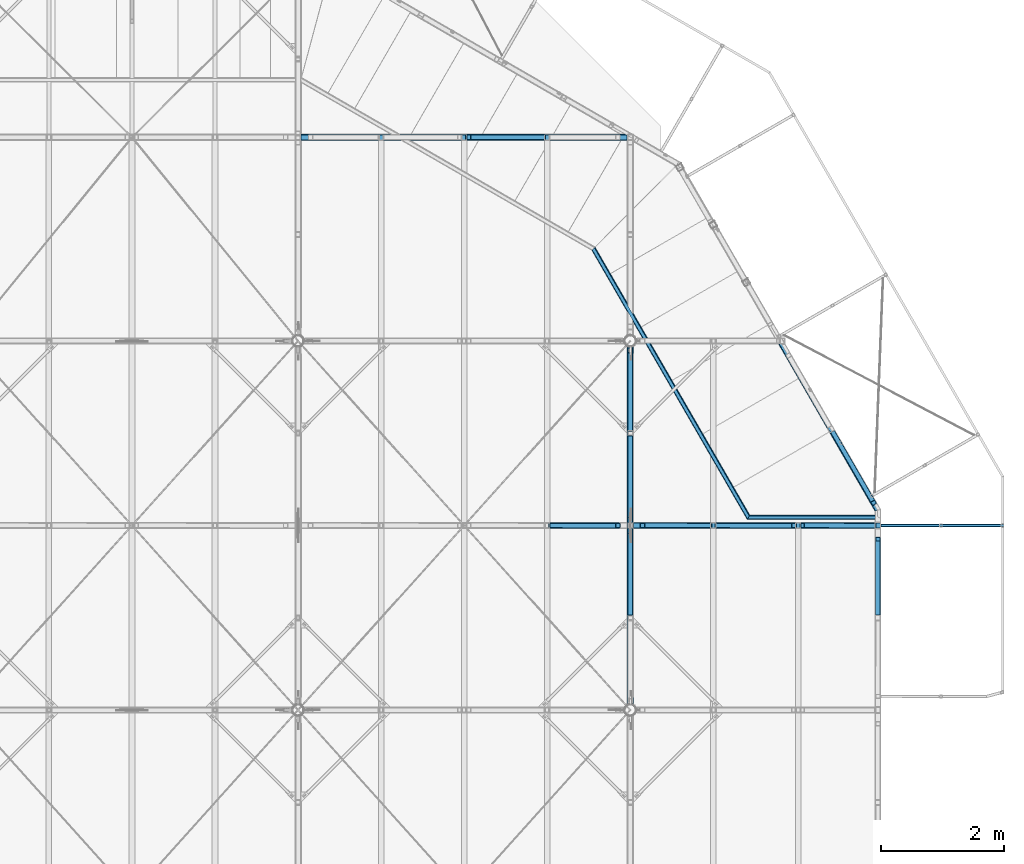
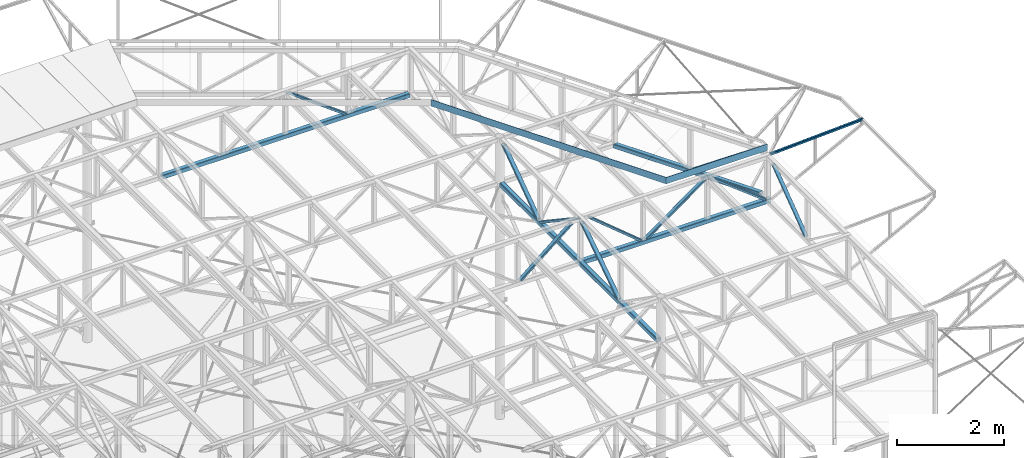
# One storey, part 58 of 132: 19 discrete accessories, 9 elements without a shape of their own.
"""IFC2X3 building model written with IfcOpenShell, lengths in millimetres."""

from ifc_helpers import new_model, si_unit, frame, origin_with_axes, origin_2d_with_axis, place, context, subcontext, project, spatial, rounded_rectangle, hollow_rectangle, circle, l_section, extrude, boolean, clip, halfspace, material, type_object, element, aggregate, save


model = new_model("IFC2X3")

# Units and contexts
model_context = context("Model", 3, precision=1e-05, world=origin_with_axes())
body_context = subcontext(model_context, "Body", "Model", "MODEL_VIEW")
ifc_project = project(units=[si_unit("LENGTHUNIT", "METRE", prefix="MILLI"), si_unit("AREAUNIT", "SQUARE_METRE"), si_unit("VOLUMEUNIT", "CUBIC_METRE"), si_unit("MASSUNIT", "GRAM", prefix="KILO"), si_unit("TIMEUNIT", "SECOND"), si_unit("PLANEANGLEUNIT", "RADIAN"), si_unit("SOLIDANGLEUNIT", "STERADIAN"), si_unit("THERMODYNAMICTEMPERATUREUNIT", "DEGREE_CELSIUS"), si_unit("LUMINOUSINTENSITYUNIT", "LUMEN")], contexts=[model_context])

# Site, building, storey
site_placement = place(None, origin_with_axes())
site = spatial("IfcSite", under=ifc_project, at=site_placement, Name="Budowa", CompositionType="ELEMENT")
building_placement = place(site_placement, origin_with_axes())
building = spatial("IfcBuilding", under=site, at=building_placement, Name="Undefined", CompositionType="ELEMENT")
storey_placement = place(building_placement, origin_with_axes())
storey = spatial("IfcBuildingStorey", under=building, at=storey_placement, Name="Undefined", CompositionType="ELEMENT", Elevation=0.0)

# Assembly, discrete accessories
assembly_1_placement = place(storey_placement, origin_with_axes())
assembly_1 = element("IfcElementAssembly", 1, at=assembly_1_placement, inside=storey, Name="Steel Assembly", AssemblyPlace="NOTDEFINED", PredefinedType="RIGID_FRAME")
ifc_material = material(Name="STEEL/S235")
discrete_accessory_type = type_object("IfcDiscreteAccessoryType", Name="BEAM")
discrete_accessory_1_placement = place(assembly_1_placement, frame((22153.4010117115, 15116.2999962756, 13965.0), z_axis=(0.866025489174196, 0.499999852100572, 0.0), x_axis=(-0.500000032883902, 0.866025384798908, 0.0)))
discrete_accessory_1 = element("IfcDiscreteAccessory", 2, at=discrete_accessory_1_placement, type_object=discrete_accessory_type, material=ifc_material, Name="BEAM", ObjectType="L50*6", context=body_context, shape_type="Clipping", body=[
    clip(clip(extrude(l_section(Depth=50.0, Width=50.0, Thickness=6.0, FilletRadius=7.0, EdgeRadius=3.5, at=origin_2d_with_axis()), frame((5114.41468636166, 0.0, 0.0), z_axis=(-1.0, 0.0, 0.0), x_axis=(0.0, -1.0, 0.0)), (0.0, 0.0, 1.0), 5154.39), halfspace(frame((5053.30976804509, 0.0, -25.0000000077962), z_axis=(-0.965925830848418, 0.0, 0.258819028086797), x_axis=(0.0, 1.0, 0.0)), True)), halfspace(frame((3.51101334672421e-08, 0.0, -24.9999999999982), z_axis=(-0.866025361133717, 0.0, 0.500000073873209), x_axis=(0.0, 1.0, 0.0)), False)),
])
discrete_accessory_2_placement = place(assembly_1_placement, frame((24300.0001076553, 15128.7999999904, 13965.0), z_axis=(0.0, 1.0, 0.0), x_axis=(-1.0, 0.0, 0.0)))
discrete_accessory_2 = element("IfcDiscreteAccessory", 3, at=discrete_accessory_2_placement, type_object=discrete_accessory_type, material=ifc_material, Name="BEAM", ObjectType="L50*6", context=body_context, shape_type="Clipping", body=[
    clip(clip(extrude(l_section(Depth=50.0, Width=50.0, Thickness=6.0, FilletRadius=7.0, EdgeRadius=3.5, at=origin_2d_with_axis()), frame((2198.69407077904, 0.0, 0.0), z_axis=(-1.0, 0.0, 0.0), x_axis=(0.0, -1.0, 0.0)), (0.0, 0.0, 1.0), 2213.57), halfspace(frame((2168.24973318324, 0.0, -24.9999999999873), z_axis=(-0.86602536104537, 0.0, -0.50000007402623), x_axis=(0.0, 1.0, 0.0)), True)), halfspace(frame((59.999750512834, 39.0, 25.0), z_axis=(0.64018439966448, 0.0, -0.768221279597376), x_axis=(0.0, 1.0, 0.0)), True)),
])
aggregate(assembly_1, [discrete_accessory_1, discrete_accessory_2])

assembly_2_placement = place(storey_placement, origin_with_axes())
assembly_2 = element("IfcElementAssembly", 4, at=assembly_2_placement, inside=storey, Name="Steel Assembly", AssemblyPlace="NOTDEFINED", PredefinedType="RIGID_FRAME")
discrete_accessory_3_placement = place(assembly_2_placement, frame((24300.0001076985, 15132.3000000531, 13955.0), z_axis=(0.0, 0.0, 1.0), x_axis=(-1.0, 0.0, 0.0)))
discrete_accessory_3 = element("IfcDiscreteAccessory", 5, at=discrete_accessory_3_placement, type_object=discrete_accessory_type, material=ifc_material, Name="BEAM", ObjectType="L150*75*9", context=body_context, shape_type="Clipping", body=[
    clip(extrude(l_section(Depth=150.0, Width=75.0, Thickness=9.0, FilletRadius=10.5, EdgeRadius=5.5, at=origin_2d_with_axis()), frame((2173.66239300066, 0.0, 0.0), z_axis=(-1.0, 0.0, 0.0), x_axis=(0.0, -1.0, 0.0)), (0.0, 0.0, 1.0), 2173.66), halfspace(frame((2173.44588660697, 37.4999999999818, 0.0), z_axis=(-0.86602545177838, 0.499999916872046, 0.0), x_axis=(0.0, 0.0, 1.0)), True)),
])
discrete_accessory_4_placement = place(assembly_2_placement, frame((22366.4764427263, 14754.2423806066, 13955.0), z_axis=(0.0, 0.0, 1.0), x_axis=(-0.500000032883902, 0.866025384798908, 0.0)))
discrete_accessory_4 = element("IfcDiscreteAccessory", 6, at=discrete_accessory_4_placement, type_object=discrete_accessory_type, material=ifc_material, Name="BEAM", ObjectType="L150*75*9", context=body_context, shape_type="Clipping", body=[
    clip(clip(extrude(l_section(Depth=150.0, Width=75.0, Thickness=9.0, FilletRadius=10.5, EdgeRadius=5.5, at=origin_2d_with_axis()), frame((5562.64441027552, -3.08788795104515e-13, -1.81898940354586e-12), z_axis=(-1.0, 0.0, 0.0), x_axis=(0.0, -1.0, 0.0)), (0.0, 0.0, 1.0), 5207.71), halfspace(frame((5491.08322379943, -37.4999999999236, -1.81898940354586e-12), z_axis=(0.965925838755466, 0.258818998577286, 0.0), x_axis=(0.0, 0.0, 1.0)), False)), halfspace(frame((414.892654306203, 37.5000000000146, -1.81898940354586e-12), z_axis=(-0.866025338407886, -0.500000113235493, 0.0), x_axis=(0.0, 0.0, 1.0)), False)),
])
aggregate(assembly_2, [discrete_accessory_3, discrete_accessory_4])

# Assembly, discrete accessory
assembly_3_placement = place(storey_placement, origin_with_axes())
assembly_3 = element("IfcElementAssembly", 7, at=assembly_3_placement, inside=storey, Name="Steel Assembly", AssemblyPlace="NOTDEFINED", PredefinedType="RIGID_FRAME")
discrete_accessory_5_placement = place(assembly_3_placement, frame((24301.1484404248, 15000.0000000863, 13855.0311915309), z_axis=(0.0, 1.0, 0.0), x_axis=(0.998752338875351, 0.0, 0.0499376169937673)))
discrete_accessory_5 = element("IfcDiscreteAccessory", 8, at=discrete_accessory_5_placement, type_object=discrete_accessory_type, material=ifc_material, Name="BEAM", ObjectType="SHS50*4", context=body_context, shape_type="Clipping", body=[
    clip(clip(extrude(hollow_rectangle(XDim=50.0, YDim=50.0, WallThickness=4.0, InnerFilletRadius=4.0, OuterFilletRadius=8.0, at=origin_2d_with_axis()), frame((2004.12425861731, -3.63797880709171e-12, 0.0), z_axis=(-1.0, 0.0, 0.0), x_axis=(0.0, -1.0, 0.0)), (0.0, 0.0, 1.0), 2033.18), halfspace(frame((2002.5989463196, -25.0000000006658, -7.85761585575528e-07), z_axis=(-0.689225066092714, -0.724547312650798, 2.88487317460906e-10), x_axis=(0.0, 0.0, -1.0)), True)), halfspace(frame((-1.23691279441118e-08, -25.0000000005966, 73.1665326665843), z_axis=(-0.998752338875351, -0.0499376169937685, 0.0), x_axis=(0.0, 0.0, -1.0)), False)),
])
aggregate(assembly_3, [discrete_accessory_5])

assembly_4_placement = place(storey_placement, origin_with_axes())
assembly_4 = element("IfcElementAssembly", 9, at=assembly_4_placement, inside=storey, Name="Steel Assembly", AssemblyPlace="NOTDEFINED", PredefinedType="RIGID_FRAME")
discrete_accessory_6_placement = place(assembly_4_placement, frame((24249.8999999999, 13500.000000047, 12830.0000000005), z_axis=(-1.0, 0.0, 0.0), x_axis=(0.0, 0.802498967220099, 0.596653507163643)))
solid_1 = boolean("DIFFERENCE", boolean("DIFFERENCE", extrude(rounded_rectangle(XDim=90.0, YDim=90.0, RoundingRadius=8.0, at=origin_2d_with_axis()), frame((566.820831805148, -762.374018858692, -2.91038304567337e-11), z_axis=(-0.596653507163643, 0.802498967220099, 0.0), x_axis=(0.0, 0.0, 1.0)), (0.0, 0.0, 1.0), 900.0), halfspace(frame((1369.31979902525, -165.720511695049, -2.91038304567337e-11), z_axis=(-0.596653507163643, 0.802498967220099, 0.0), x_axis=(0.0, 0.0, 1.0)), True)), halfspace(frame((832.33164257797, 556.528558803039, -2.91038304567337e-11), z_axis=(0.596653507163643, -0.802498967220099, 0.0), x_axis=(0.0, 0.0, -1.0)), True))
discrete_accessory_6 = element("IfcDiscreteAccessory", 10, at=discrete_accessory_6_placement, type_object=discrete_accessory_type, material=ifc_material, Name="BEAM", ObjectType="RHS80*40*4", context=body_context, shape_type="CSG", body=[
    boolean("DIFFERENCE", boolean("DIFFERENCE", boolean("DIFFERENCE", extrude(hollow_rectangle(XDim=40.0, YDim=80.0, WallThickness=4.0, InnerFilletRadius=4.0, OuterFilletRadius=8.0, at=origin_2d_with_axis()), frame((1637.41704532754, 0.0, 0.0), z_axis=(-1.0, 0.0, 0.0), x_axis=(0.0, -1.0, 0.0)), (0.0, 0.0, 1.0), 1598.82), solid_1), halfspace(frame((1646.18194282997, 40.1249483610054, 1000.0), z_axis=(-0.596653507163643, 0.802498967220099, 0.0), x_axis=(-0.8024989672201, -0.596653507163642, 0.0)), True)), halfspace(frame((29.8326753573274, -40.1249483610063, 1000.0), z_axis=(0.596653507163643, -0.802498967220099, 0.0), x_axis=(0.802498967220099, 0.596653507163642, 0.0)), True)),
])
aggregate(assembly_4, [discrete_accessory_6])

# Assembly, discrete accessories
assembly_5_placement = place(storey_placement, origin_with_axes())
assembly_5 = element("IfcElementAssembly", 11, at=assembly_5_placement, inside=storey, Name="Steel Assembly", AssemblyPlace="NOTDEFINED", PredefinedType="RIGID_FRAME")
discrete_accessory_7_placement = place(assembly_5_placement, frame((23489.6987875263, 16565.565121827, 12830.0000000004), z_axis=(0.866025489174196, 0.499999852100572, 0.0), x_axis=(0.412062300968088, -0.713712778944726, 0.566408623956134)))
solid_2 = boolean("DIFFERENCE", boolean("DIFFERENCE", extrude(hollow_rectangle(XDim=90.0, YDim=90.0, WallThickness=4.0, InnerFilletRadius=4.0, OuterFilletRadius=8.0, at=origin_2d_with_axis()), frame((538.088192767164, -782.918320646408, 9.82236597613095e-08), z_axis=(-0.566408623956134, 0.824124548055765, -1.04792036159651e-10), x_axis=(0.0, 0.0, 1.0)), (0.0, 0.0, 1.0), 900.0), halfspace(frame((1362.21274082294, -216.509696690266, 2.50474840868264e-07), z_axis=(-0.566408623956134, 0.824124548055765, -1.04792036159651e-10), x_axis=(0.0, 0.0, 1.0)), True)), halfspace(frame((852.444979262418, 525.20239655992, 1.56163878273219e-07), z_axis=(0.566408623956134, -0.824124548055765, 1.04790926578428e-10), x_axis=(0.0, 0.0, -1.0)), True))
discrete_accessory_7 = element("IfcDiscreteAccessory", 12, at=discrete_accessory_7_placement, type_object=discrete_accessory_type, material=ifc_material, Name="BEAM", ObjectType="RHS80*40*4", context=body_context, shape_type="CSG", body=[
    boolean("DIFFERENCE", boolean("DIFFERENCE", boolean("DIFFERENCE", extrude(hollow_rectangle(XDim=40.0, YDim=80.0, WallThickness=4.0, InnerFilletRadius=4.0, OuterFilletRadius=8.0, at=origin_2d_with_axis()), frame((1787.39149860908, -1.98440319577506e-13, -3.60765181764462e-12), z_axis=(-1.0, 0.0, 0.0), x_axis=(0.0, -1.0, 0.0)), (0.0, 0.0, 1.0), 1809.27), solid_2), halfspace(frame((1737.18941028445, 41.2062274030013, 999.999999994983), z_axis=(-0.566408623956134, 0.824124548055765, -1.04792036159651e-10), x_axis=(-0.824124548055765, -0.566408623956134, -1.52471329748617e-10)), True)), halfspace(frame((28.3204310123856, -41.2062274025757, 1000.00000000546), z_axis=(0.566408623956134, -0.824124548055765, 1.04790926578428e-10), x_axis=(0.824124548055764, 0.566408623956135, 1.52471329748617e-10)), True)),
])
discrete_accessory_8_placement = place(assembly_5_placement, frame((22704.5987308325, 17925.3981897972, 12830.0), z_axis=(0.866025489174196, 0.499999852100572, 0.0), x_axis=(0.5000000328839, -0.866025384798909, 0.0)))
discrete_accessory_8 = element("IfcDiscreteAccessory", 13, at=discrete_accessory_8_placement, type_object=discrete_accessory_type, material=ifc_material, Name="BEAM", ObjectType="SHS100*8", context=body_context, shape_type="Clipping", body=[
    clip(clip(extrude(hollow_rectangle(XDim=100.0, YDim=100.0, WallThickness=8.0, InnerFilletRadius=8.0, OuterFilletRadius=16.0, at=origin_2d_with_axis()), frame((3156.92730982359, 0.0, 0.0), z_axis=(-1.0, 0.0, 0.0), x_axis=(0.0, -1.0, 0.0)), (0.0, 0.0, 1.0), 3251.23), halfspace(frame((3077.40508994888, 0.0, -50.0000000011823), z_axis=(0.965925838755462, 0.0, -0.2588189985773), x_axis=(0.0, -1.0, 0.0)), False)), halfspace(frame((0.518048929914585, -50.0, 49.7009042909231), z_axis=(0.866025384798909, 0.0, -0.5000000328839), x_axis=(0.0, 1.0, 0.0)), True)),
])
aggregate(assembly_5, [discrete_accessory_7, discrete_accessory_8])

assembly_6_placement = place(storey_placement, origin_with_axes())
assembly_6 = element("IfcElementAssembly", 14, at=assembly_6_placement, inside=storey, Name="Steel Assembly", AssemblyPlace="NOTDEFINED", PredefinedType="RIGID_FRAME")
discrete_accessory_9_placement = place(assembly_6_placement, frame((20365.8999999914, 15000.0000000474, 13830.0000000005), z_axis=(0.0, -1.0, 0.0), x_axis=(0.77030791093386, 0.0, -0.637672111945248)))
solid_3 = boolean("DIFFERENCE", boolean("DIFFERENCE", extrude(hollow_rectangle(XDim=90.0, YDim=90.0, WallThickness=6.0, InnerFilletRadius=6.0, OuterFilletRadius=12.0, at=origin_2d_with_axis()), frame((1536.320462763, 38.5153958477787, 3.71073838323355e-10), z_axis=(-0.637672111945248, 0.770307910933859, 0.0), x_axis=(0.0, 0.0, -1.0)), (0.0, 0.0, 1.0), 900.0), halfspace(frame((766.012551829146, -599.15671609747, 3.71073838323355e-10), z_axis=(-0.637672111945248, 0.770307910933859, 0.0), x_axis=(0.0, 0.0, -1.0)), True)), halfspace(frame((192.107651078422, 94.1204037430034, 3.71073838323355e-10), z_axis=(0.637672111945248, -0.770307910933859, 0.0), x_axis=(0.0, 0.0, 1.0)), True))
discrete_accessory_9 = element("IfcDiscreteAccessory", 15, at=discrete_accessory_9_placement, type_object=discrete_accessory_type, material=ifc_material, Name="BEAM", ObjectType="RHS90*50*5", context=body_context, shape_type="CSG", body=[
    boolean("DIFFERENCE", boolean("DIFFERENCE", boolean("DIFFERENCE", extrude(hollow_rectangle(XDim=50.0, YDim=90.0, WallThickness=5.0, InnerFilletRadius=7.5, OuterFilletRadius=12.5, at=origin_2d_with_axis()), frame((1532.27723418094, -9.9455317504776e-13, 0.0), z_axis=(-1.0, 0.0, 0.0), x_axis=(0.0, -1.0, 0.0)), (0.0, 0.0, 1.0), 1496.35), solid_3), halfspace(frame((1536.32046239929, 38.5153955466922, 1000.0), z_axis=(-0.637672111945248, 0.770307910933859, 0.0), x_axis=(-0.770307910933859, -0.637672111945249, 0.0)), True)), halfspace(frame((31.8836055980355, -38.5153955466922, 1000.0), z_axis=(0.637672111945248, -0.770307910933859, 0.0), x_axis=(0.77030791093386, 0.637672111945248, 0.0)), True)),
])
discrete_accessory_10_placement = place(assembly_6_placement, frame((22954.8999995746, 15000.0000000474, 13830.0000000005), z_axis=(0.0, -1.0, 0.0), x_axis=(-0.809951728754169, 0.0, -0.586496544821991)))
solid_4 = boolean("DIFFERENCE", boolean("DIFFERENCE", extrude(hollow_rectangle(XDim=90.0, YDim=90.0, WallThickness=6.0, InnerFilletRadius=6.0, OuterFilletRadius=12.0, at=origin_2d_with_axis()), frame((1675.71505464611, -40.4975858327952, 3.72892827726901e-10), z_axis=(-0.586496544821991, -0.809951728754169, 0.0), x_axis=(0.0, 0.0, -1.0)), (0.0, 0.0, 1.0), 900.0), halfspace(frame((2485.66678340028, -626.994130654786, 3.72892827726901e-10), z_axis=(-0.586496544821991, -0.809951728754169, 0.0), x_axis=(0.0, 0.0, -1.0)), True)), halfspace(frame((1957.81989306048, -1355.95068653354, 3.72892827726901e-10), z_axis=(0.586496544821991, 0.809951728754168, 0.0), x_axis=(0.0, 0.0, 1.0)), True))
solid_5 = boolean("DIFFERENCE", boolean("DIFFERENCE", extrude(hollow_rectangle(XDim=90.0, YDim=90.0, WallThickness=6.0, InnerFilletRadius=6.0, OuterFilletRadius=12.0, at=origin_2d_with_axis()), frame((557.171717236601, 769.454142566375, 3.72892827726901e-10), z_axis=(-0.586496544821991, -0.809951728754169, 0.0), x_axis=(0.0, 0.0, -1.0)), (0.0, 0.0, 1.0), 900.0), halfspace(frame((1367.12344599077, 182.957597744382, 3.72892827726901e-10), z_axis=(-0.586496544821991, -0.809951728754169, 0.0), x_axis=(0.0, 0.0, -1.0)), True)), halfspace(frame((839.27655565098, -545.998958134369, 3.72892827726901e-10), z_axis=(0.586496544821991, 0.809951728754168, 0.0), x_axis=(0.0, 0.0, 1.0)), True))
discrete_accessory_10 = element("IfcDiscreteAccessory", 16, at=discrete_accessory_10_placement, type_object=discrete_accessory_type, material=ifc_material, Name="BEAM", ObjectType="RHS90*50*5", context=body_context, shape_type="CSG", body=[
    boolean("DIFFERENCE", boolean("DIFFERENCE", boolean("DIFFERENCE", boolean("DIFFERENCE", extrude(hollow_rectangle(XDim=50.0, YDim=90.0, WallThickness=5.0, InnerFilletRadius=7.5, OuterFilletRadius=12.5, at=origin_2d_with_axis()), frame((1659.13615307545, -9.21005579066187e-14, 1.81898940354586e-12), z_axis=(-1.0, 0.0, 0.0), x_axis=(0.0, -1.0, 0.0)), (0.0, 0.0, 1.0), 1613.23), solid_4), solid_5), halfspace(frame((1675.71505548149, -40.4975864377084, 1000.0), z_axis=(-0.586496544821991, -0.809951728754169, 0.0), x_axis=(0.80995172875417, -0.586496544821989, 0.0)), True)), halfspace(frame((29.3248272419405, 40.4975864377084, 1000.0), z_axis=(0.586496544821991, 0.809951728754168, 0.0), x_axis=(-0.809951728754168, 0.586496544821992, 0.0)), True)),
])
discrete_accessory_11_placement = place(assembly_6_placement, frame((24249.9000000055, 15000.0000000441, 12830.0000000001), z_axis=(0.0, -1.0, 0.0), x_axis=(-0.791486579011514, 0.0, 0.611186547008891)))
solid_6 = boolean("DIFFERENCE", boolean("DIFFERENCE", extrude(hollow_rectangle(XDim=100.0, YDim=100.0, WallThickness=8.0, InnerFilletRadius=8.0, OuterFilletRadius=16.0, at=origin_2d_with_axis()), frame((30.5593273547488, -39.5743289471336, -2.88309820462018e-09), z_axis=(0.611186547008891, -0.791486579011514, 0.0), x_axis=(0.0, 0.0, -1.0)), (0.0, 0.0, 1.0), 900.0), halfspace(frame((822.045906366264, 571.61221806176, -2.88309820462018e-09), z_axis=(0.611186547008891, -0.791486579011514, 0.0), x_axis=(0.0, 0.0, -1.0)), True)), halfspace(frame((1372.11379867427, -140.725703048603, -2.88309820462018e-09), z_axis=(-0.61118654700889, 0.791486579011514, 0.0), x_axis=(0.0, 0.0, 1.0)), True))
solid_7 = boolean("DIFFERENCE", boolean("DIFFERENCE", extrude(hollow_rectangle(XDim=90.0, YDim=90.0, WallThickness=6.0, InnerFilletRadius=6.0, OuterFilletRadius=12.0, at=origin_2d_with_axis()), frame((1055.53444717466, 751.912249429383, -2.88309820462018e-09), z_axis=(0.611186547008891, -0.791486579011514, 0.0), x_axis=(0.0, 0.0, -1.0)), (0.0, 0.0, 1.0), 900.0), halfspace(frame((1847.02102618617, 1363.09879643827, -2.88309820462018e-09), z_axis=(0.611186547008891, -0.791486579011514, 0.0), x_axis=(0.0, 0.0, -1.0)), True)), halfspace(frame((2397.08891849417, 650.760875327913, -2.88309820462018e-09), z_axis=(-0.61118654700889, 0.791486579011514, 0.0), x_axis=(0.0, 0.0, 1.0)), True))
discrete_accessory_11 = element("IfcDiscreteAccessory", 17, at=discrete_accessory_11_placement, type_object=discrete_accessory_type, material=ifc_material, Name="BEAM", ObjectType="RHS90*50*5", context=body_context, shape_type="CSG", body=[
    boolean("DIFFERENCE", boolean("DIFFERENCE", boolean("DIFFERENCE", boolean("DIFFERENCE", extrude(hollow_rectangle(XDim=50.0, YDim=90.0, WallThickness=5.0, InnerFilletRadius=7.5, OuterFilletRadius=12.5, at=origin_2d_with_axis()), frame((1581.93293336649, 8.78149183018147e-14, 0.0), z_axis=(-1.0, 0.0, 0.0), x_axis=(0.0, -1.0, 0.0)), (0.0, 0.0, 1.0), 1527.7), solid_6), solid_7), halfspace(frame((1605.60234030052, 39.5743289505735, 1000.0), z_axis=(-0.61118654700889, 0.791486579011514, 0.0), x_axis=(-0.791486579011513, -0.611186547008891, 0.0)), True)), halfspace(frame((30.5593273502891, -39.5743289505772, 1000.0), z_axis=(0.611186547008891, -0.791486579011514, 0.0), x_axis=(0.791486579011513, 0.611186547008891, 0.0)), True)),
])
discrete_accessory_12_placement = place(assembly_6_placement, frame((20274.9, 15000.000000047, 12830.0), z_axis=(0.0, -1.0, 0.0), x_axis=(1.0, 0.0, 0.0)))
discrete_accessory_12 = element("IfcDiscreteAccessory", 18, at=discrete_accessory_12_placement, type_object=discrete_accessory_type, material=ifc_material, Name="BEAM", ObjectType="SHS100*8", context=body_context, shape_type="SweptSolid", body=[
    extrude(hollow_rectangle(XDim=100.0, YDim=100.0, WallThickness=8.0, InnerFilletRadius=8.0, OuterFilletRadius=16.0, at=origin_2d_with_axis()), frame((4025.0, 0.0, 0.0), z_axis=(-1.0, 0.0, 0.0), x_axis=(0.0, -1.0, 0.0)), (0.0, 0.0, 1.0), 4025.0),
])
aggregate(assembly_6, [discrete_accessory_9, discrete_accessory_10, discrete_accessory_11, discrete_accessory_12])

assembly_7_placement = place(storey_placement, origin_with_axes())
assembly_7 = element("IfcElementAssembly", 19, at=assembly_7_placement, inside=storey, Name="Steel Assembly", AssemblyPlace="NOTDEFINED", PredefinedType="RIGID_FRAME")
discrete_accessory_13_placement = place(assembly_7_placement, frame((17524.9999999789, 21310.0000000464, 13830.0), z_axis=(0.0, -1.0, 0.0), x_axis=(0.803557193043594, 0.0, -0.595227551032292)))
solid_8 = boolean("DIFFERENCE", boolean("DIFFERENCE", extrude(hollow_rectangle(XDim=90.0, YDim=90.0, WallThickness=6.0, InnerFilletRadius=6.0, OuterFilletRadius=12.0, at=origin_2d_with_axis()), frame((1650.26838408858, 40.1778605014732, -6.22094376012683e-10), z_axis=(-0.595227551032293, 0.803557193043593, 0.0), x_axis=(-0.803557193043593, -0.595227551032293, 0.0)), (0.0, 0.0, 1.0), 900.0), halfspace(frame((1650.2683829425, 40.1778596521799, 1000.0), z_axis=(-0.595227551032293, 0.803557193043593, 0.0), x_axis=(-0.803557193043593, -0.595227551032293, 0.0)), True)), halfspace(frame((1114.56358815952, 763.379334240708, 999.999999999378), z_axis=(0.595227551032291, -0.803557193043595, 0.0), x_axis=(0.803557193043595, 0.595227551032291, 0.0)), True))
solid_9 = boolean("DIFFERENCE", boolean("DIFFERENCE", extrude(hollow_rectangle(XDim=90.0, YDim=90.0, WallThickness=6.0, InnerFilletRadius=6.0, OuterFilletRadius=12.0, at=origin_2d_with_axis()), frame((565.46617347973, -763.379333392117, -6.22094376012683e-10), z_axis=(-0.595227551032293, 0.803557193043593, 0.0), x_axis=(-0.803557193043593, -0.595227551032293, 0.0)), (0.0, 0.0, 1.0), 900.0), halfspace(frame((565.46617347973, -763.37933339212, 999.999999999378), z_axis=(-0.595227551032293, 0.803557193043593, 0.0), x_axis=(-0.803557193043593, -0.595227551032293, 0.0)), True)), halfspace(frame((29.7613775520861, -40.1778596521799, 1000.0), z_axis=(0.595227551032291, -0.803557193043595, 0.0), x_axis=(0.803557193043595, 0.595227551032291, 0.0)), True))
discrete_accessory_13 = element("IfcDiscreteAccessory", 20, at=discrete_accessory_13_placement, type_object=discrete_accessory_type, material=ifc_material, Name="BEAM", ObjectType="RHS90*50*5", context=body_context, shape_type="CSG", body=[
    boolean("DIFFERENCE", boolean("DIFFERENCE", boolean("DIFFERENCE", boolean("DIFFERENCE", extrude(hollow_rectangle(XDim=50.0, YDim=90.0, WallThickness=5.0, InnerFilletRadius=7.5, OuterFilletRadius=12.5, at=origin_2d_with_axis()), frame((1632.54994793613, 0.0, 0.0), z_axis=(-1.0, 0.0, 0.0), x_axis=(0.0, -1.0, 0.0)), (0.0, 0.0, 1.0), 1585.07), solid_8), solid_9), halfspace(frame((1650.2683829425, 40.1778596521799, 1000.0), z_axis=(-0.595227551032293, 0.803557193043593, 0.0), x_axis=(-0.803557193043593, -0.595227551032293, 0.0)), True)), halfspace(frame((29.7613775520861, -40.1778596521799, 1000.0), z_axis=(0.595227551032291, -0.803557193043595, 0.0), x_axis=(0.803557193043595, 0.595227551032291, 0.0)), True)),
])
discrete_accessory_14_placement = place(assembly_7_placement, frame((14874.9999999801, 21310.000000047, 12830.0), z_axis=(0.0, -1.0, 0.0), x_axis=(1.0, 0.0, 0.0)))
discrete_accessory_14 = element("IfcDiscreteAccessory", 21, at=discrete_accessory_14_placement, type_object=discrete_accessory_type, material=ifc_material, Name="BEAM", ObjectType="SHS100*8", context=body_context, shape_type="SweptSolid", body=[
    extrude(hollow_rectangle(XDim=100.0, YDim=100.0, WallThickness=8.0, InnerFilletRadius=8.0, OuterFilletRadius=16.0, at=origin_2d_with_axis()), frame((5300.0, 0.0, 0.0), z_axis=(-1.0, 0.0, 0.0), x_axis=(0.0, -1.0, 0.0)), (0.0, 0.0, 1.0), 5300.0),
])
aggregate(assembly_7, [discrete_accessory_13, discrete_accessory_14])

# Assembly, discrete accessory
assembly_8_placement = place(storey_placement, origin_with_axes())
assembly_8 = element("IfcElementAssembly", 22, at=assembly_8_placement, inside=storey, Name="Steel Assembly", AssemblyPlace="NOTDEFINED", PredefinedType="RIGID_FRAME")
discrete_accessory_15_placement = place(assembly_8_placement, frame((20083.9999999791, 15000.0000000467, 13830.0), z_axis=(0.0, -1.0, 0.0), x_axis=(-0.770567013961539, 0.0, -0.637358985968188)))
solid_10 = boolean("DIFFERENCE", boolean("DIFFERENCE", extrude(hollow_rectangle(XDim=90.0, YDim=90.0, WallThickness=6.0, InnerFilletRadius=6.0, OuterFilletRadius=12.0, at=origin_2d_with_axis()), frame((1537.1065565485, -38.5283507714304, -6.22094376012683e-10), z_axis=(-0.637358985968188, -0.770567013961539, 0.0), x_axis=(0.770567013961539, -0.637358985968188, 0.0)), (0.0, 0.0, 1.0), 900.0), halfspace(frame((1537.1065565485, -38.5283507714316, 999.999999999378), z_axis=(-0.637358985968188, -0.770567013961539, 0.0), x_axis=(0.770567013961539, -0.637358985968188, 0.0)), True)), halfspace(frame((963.483469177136, -732.038663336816, 999.999999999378), z_axis=(0.637358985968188, 0.770567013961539, 0.0), x_axis=(-0.770567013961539, 0.637358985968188, 0.0)), True))
discrete_accessory_15 = element("IfcDiscreteAccessory", 23, at=discrete_accessory_15_placement, type_object=discrete_accessory_type, material=ifc_material, Name="BEAM", ObjectType="RHS90*50*5", context=body_context, shape_type="CSG", body=[
    boolean("DIFFERENCE", boolean("DIFFERENCE", boolean("DIFFERENCE", extrude(hollow_rectangle(XDim=50.0, YDim=90.0, WallThickness=5.0, InnerFilletRadius=7.5, OuterFilletRadius=12.5, at=origin_2d_with_axis()), frame((1533.07734352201, 2.27373675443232e-12, 0.0), z_axis=(-1.0, 0.0, 0.0), x_axis=(0.0, -1.0, 0.0)), (0.0, 0.0, 1.0), 1497.18), solid_10), halfspace(frame((1537.1065565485, -38.5283507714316, 999.999999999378), z_axis=(-0.637358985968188, -0.770567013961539, 0.0), x_axis=(0.770567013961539, -0.637358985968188, 0.0)), True)), halfspace(frame((31.867949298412, 38.52835069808, 1000.0), z_axis=(0.637358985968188, 0.770567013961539, 0.0), x_axis=(-0.770567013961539, 0.637358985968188, 0.0)), True)),
])
aggregate(assembly_8, [discrete_accessory_15])

# Assembly, discrete accessories
assembly_9_placement = place(storey_placement, origin_with_axes())
assembly_9 = element("IfcElementAssembly", 24, at=assembly_9_placement, inside=storey, Name="Steel Assembly", AssemblyPlace="NOTDEFINED", PredefinedType="RIGID_FRAME")
discrete_accessory_16_placement = place(assembly_9_placement, frame((20224.9999999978, 16500.0000000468, 12829.9999999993), z_axis=(1.0, 0.0, 0.0), x_axis=(0.0, 0.817796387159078, 0.575507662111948)))
solid_11 = boolean("DIFFERENCE", boolean("DIFFERENCE", extrude(hollow_rectangle(XDim=90.0, YDim=90.0, WallThickness=6.0, InnerFilletRadius=6.0, OuterFilletRadius=12.0, at=origin_2d_with_axis()), frame((28.7753831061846, 40.8898193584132, 2.20825313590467e-09), z_axis=(0.575507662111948, 0.817796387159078, 0.0), x_axis=(-0.817796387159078, 0.575507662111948, 0.0)), (0.0, 0.0, 1.0), 900.0), halfspace(frame((28.7753831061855, 40.8898193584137, 1000.00000000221), z_axis=(0.575507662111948, 0.817796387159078, 0.0), x_axis=(-0.817796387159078, 0.575507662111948, 0.0)), True)), halfspace(frame((546.732279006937, 776.906567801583, 1000.00000000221), z_axis=(-0.575507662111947, -0.817796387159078, 0.0), x_axis=(0.817796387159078, -0.575507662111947, 0.0)), True))
discrete_accessory_16 = element("IfcDiscreteAccessory", 25, at=discrete_accessory_16_placement, type_object=discrete_accessory_type, material=ifc_material, Name="BEAM", ObjectType="RHS90*50*5", context=body_context, shape_type="CSG", body=[
    boolean("DIFFERENCE", boolean("DIFFERENCE", boolean("DIFFERENCE", extrude(hollow_rectangle(XDim=50.0, YDim=90.0, WallThickness=5.0, InnerFilletRadius=7.5, OuterFilletRadius=12.5, at=origin_2d_with_axis()), frame((1708.11339266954, 0.0, 0.0), z_axis=(-1.0, 0.0, 0.0), x_axis=(0.0, -1.0, 0.0)), (0.0, 0.0, 1.0), 1678.63), solid_11), halfspace(frame((1708.8209441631, -40.8898193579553, 1000.0), z_axis=(-0.575507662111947, -0.817796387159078, 0.0), x_axis=(0.817796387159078, -0.575507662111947, 0.0)), True)), halfspace(frame((28.7753831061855, 40.8898193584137, 1000.00000000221), z_axis=(0.575507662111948, 0.817796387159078, 0.0), x_axis=(-0.817796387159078, 0.575507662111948, 0.0)), True)),
])
discrete_accessory_17_placement = place(assembly_9_placement, frame((20224.9999999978, 16499.8000000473, 12829.9999999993), z_axis=(1.0, 0.0, 0.0), x_axis=(0.0, -0.832050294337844, 0.554700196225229)))
solid_12 = boolean("DIFFERENCE", boolean("DIFFERENCE", extrude(hollow_rectangle(XDim=90.0, YDim=90.0, WallThickness=6.0, InnerFilletRadius=6.0, OuterFilletRadius=12.0, at=origin_2d_with_axis()), frame((27.5685997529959, -41.7134547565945, 2.20825313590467e-09), z_axis=(0.554700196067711, -0.832050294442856, 1.11090858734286e-10), x_axis=(0.832050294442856, 0.554700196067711, 1.66635594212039e-10)), (0.0, 0.0, 1.0), 900.0), halfspace(frame((27.5685997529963, -41.7134547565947, 1000.00000000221), z_axis=(0.554700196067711, -0.832050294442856, 1.11090858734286e-10), x_axis=(0.832050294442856, 0.554700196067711, 1.66635594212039e-10)), True)), halfspace(frame((526.798776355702, -790.558719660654, 1000.00000000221), z_axis=(-0.554700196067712, 0.832050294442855, -1.1109021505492e-10), x_axis=(-0.832050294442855, -0.554700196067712, -1.66634890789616e-10)), True))
solid_13 = boolean("DIFFERENCE", boolean("DIFFERENCE", extrude(hollow_rectangle(XDim=90.0, YDim=90.0, WallThickness=6.0, InnerFilletRadius=6.0, OuterFilletRadius=12.0, at=origin_2d_with_axis()), frame((1275.64404125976, 790.336839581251, 2.20825313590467e-09), z_axis=(0.554700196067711, -0.832050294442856, 1.11090858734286e-10), x_axis=(0.832050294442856, 0.554700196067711, 1.66635594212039e-10)), (0.0, 0.0, 1.0), 900.0), halfspace(frame((1275.64404125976, 790.33683958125, 1000.00000000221), z_axis=(0.554700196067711, -0.832050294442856, 1.11090858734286e-10), x_axis=(0.832050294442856, 0.554700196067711, 1.66635594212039e-10)), True)), halfspace(frame((1774.87421786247, 41.4915746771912, 1000.00000000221), z_axis=(-0.554700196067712, 0.832050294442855, -1.1109021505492e-10), x_axis=(-0.832050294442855, -0.554700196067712, -1.66634890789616e-10)), True))
discrete_accessory_17 = element("IfcDiscreteAccessory", 26, at=discrete_accessory_17_placement, type_object=discrete_accessory_type, material=ifc_material, Name="BEAM", ObjectType="RHS90*50*5", context=body_context, shape_type="CSG", body=[
    boolean("DIFFERENCE", boolean("DIFFERENCE", boolean("DIFFERENCE", boolean("DIFFERENCE", extrude(hollow_rectangle(XDim=50.0, YDim=90.0, WallThickness=5.0, InnerFilletRadius=7.5, OuterFilletRadius=12.5, at=origin_2d_with_axis()), frame((1763.05910368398, 0.0, 0.0), z_axis=(-1.0, 0.0, 0.0), x_axis=(0.0, -1.0, 0.0)), (0.0, 0.0, 1.0), 1723.34), solid_12), solid_13), halfspace(frame((1775.04062824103, 41.6025147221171, 999.999999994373), z_axis=(-0.554700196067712, 0.832050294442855, -1.1109021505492e-10), x_axis=(-0.832050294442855, -0.554700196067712, -1.66634890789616e-10)), True)), halfspace(frame((27.7350096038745, -41.6025147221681, 1000.00000000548), z_axis=(0.554700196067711, -0.832050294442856, 1.11090858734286e-10), x_axis=(0.832050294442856, 0.554700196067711, 1.66635594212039e-10)), True)),
])
discrete_accessory_18_placement = place(assembly_9_placement, frame((20224.9999999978, 13500.0000000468, 12829.9999999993), z_axis=(1.0, 0.0, 0.0), x_axis=(0.0, 0.832050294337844, 0.554700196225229)))
solid_14 = boolean("DIFFERENCE", boolean("DIFFERENCE", extrude(hollow_rectangle(XDim=90.0, YDim=90.0, WallThickness=6.0, InnerFilletRadius=6.0, OuterFilletRadius=12.0, at=origin_2d_with_axis()), frame((1275.81045145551, -790.447779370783, -2.51850795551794e-07), z_axis=(0.554700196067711, 0.832050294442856, -1.11090858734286e-10), x_axis=(-0.832050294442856, 0.554700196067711, 1.66634595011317e-10)), (0.0, 0.0, 1.0), 900.0), halfspace(frame((1275.81045165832, -790.447779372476, 999.999999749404), z_axis=(0.554700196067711, 0.832050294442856, -1.11090858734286e-10), x_axis=(-0.832050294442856, 0.554700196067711, 1.66634595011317e-10)), True)), halfspace(frame((1775.04062811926, -41.6025143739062, 999.999999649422), z_axis=(-0.554700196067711, -0.832050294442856, 1.11091980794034e-10), x_axis=(0.832050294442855, -0.554700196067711, -1.66634436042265e-10)), True))
solid_15 = boolean("DIFFERENCE", boolean("DIFFERENCE", extrude(hollow_rectangle(XDim=90.0, YDim=90.0, WallThickness=6.0, InnerFilletRadius=6.0, OuterFilletRadius=12.0, at=origin_2d_with_axis()), frame((27.7350097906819, 41.6025147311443, -4.89933715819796e-09), z_axis=(0.554700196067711, 0.832050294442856, -1.11090858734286e-10), x_axis=(-0.832050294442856, 0.554700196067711, 1.66634595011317e-10)), (0.0, 0.0, 1.0), 900.0), halfspace(frame((27.7350099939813, 41.6025147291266, 999.999999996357), z_axis=(0.554700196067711, 0.832050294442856, -1.11090858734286e-10), x_axis=(-0.832050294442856, 0.554700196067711, 1.66634595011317e-10)), True)), halfspace(frame((526.965186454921, 790.447779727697, 999.999999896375), z_axis=(-0.554700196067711, -0.832050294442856, 1.11091980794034e-10), x_axis=(0.832050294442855, -0.554700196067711, -1.66634436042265e-10)), True))
discrete_accessory_18 = element("IfcDiscreteAccessory", 27, at=discrete_accessory_18_placement, type_object=discrete_accessory_type, material=ifc_material, Name="BEAM", ObjectType="RHS90*50*5", context=body_context, shape_type="CSG", body=[
    boolean("DIFFERENCE", boolean("DIFFERENCE", boolean("DIFFERENCE", boolean("DIFFERENCE", extrude(hollow_rectangle(XDim=50.0, YDim=90.0, WallThickness=5.0, InnerFilletRadius=7.5, OuterFilletRadius=12.5, at=origin_2d_with_axis()), frame((1763.05910368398, 0.0, 0.0), z_axis=(-1.0, 0.0, 0.0), x_axis=(0.0, -1.0, 0.0)), (0.0, 0.0, 1.0), 1723.34), solid_14), solid_15), halfspace(frame((1775.04062811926, -41.6025143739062, 999.999999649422), z_axis=(-0.554700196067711, -0.832050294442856, 1.11091980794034e-10), x_axis=(0.832050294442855, -0.554700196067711, -1.66634436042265e-10)), True)), halfspace(frame((27.7350099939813, 41.6025147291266, 999.999999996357), z_axis=(0.554700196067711, 0.832050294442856, -1.11090858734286e-10), x_axis=(-0.832050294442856, 0.554700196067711, 1.66634595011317e-10)), True)),
])
discrete_accessory_19_placement = place(assembly_9_placement, frame((20225.0, 12088.900000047, 12830.0), z_axis=(1.0, 0.0, 0.0), x_axis=(0.0, 1.0, 0.0)))
discrete_accessory_19 = element("IfcDiscreteAccessory", 28, at=discrete_accessory_19_placement, type_object=discrete_accessory_type, material=ifc_material, Name="BEAM", ObjectType="SHS100*8", context=body_context, shape_type="CSG", body=[
    boolean("DIFFERENCE", boolean("DIFFERENCE", boolean("DIFFERENCE", boolean("DIFFERENCE", extrude(hollow_rectangle(XDim=100.0, YDim=100.0, WallThickness=8.0, InnerFilletRadius=8.0, OuterFilletRadius=16.0, at=origin_2d_with_axis()), frame((5911.09999999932, 0.0, 0.0), z_axis=(-1.0, 0.0, 0.0), x_axis=(0.0, -1.0, 0.0)), (0.0, 0.0, 1.0), 6000.0), extrude(circle(Radius=89.9, at=origin_2d_with_axis()), frame((5911.09999999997, 1950.0, 0.0), z_axis=(0.0, -1.0, 0.0), x_axis=(-1.0, 0.0, 0.0)), (0.0, 0.0, 1.0), 2100.0)), extrude(circle(Radius=89.9, at=origin_2d_with_axis()), frame((-88.9000000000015, 1950.0, -5.45696821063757e-12), z_axis=(0.0, -1.0, 0.0), x_axis=(-1.0, 0.0, 0.0)), (0.0, 0.0, 1.0), 2100.0)), halfspace(frame((5911.09999999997, -5339.0, 0.0), z_axis=(-1.0, 0.0, 0.0), x_axis=(0.0, 0.0, -1.0)), True)), halfspace(frame((-88.9000000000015, -5339.0, -5.45696821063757e-12), z_axis=(-1.0, 0.0, 0.0), x_axis=(0.0, 0.0, -1.0)), False)),
])
aggregate(assembly_9, [discrete_accessory_16, discrete_accessory_17, discrete_accessory_18, discrete_accessory_19])

save(model, "model.ifc")
